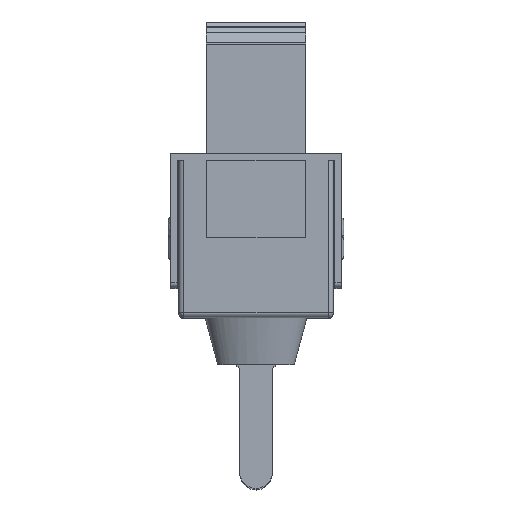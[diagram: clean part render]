
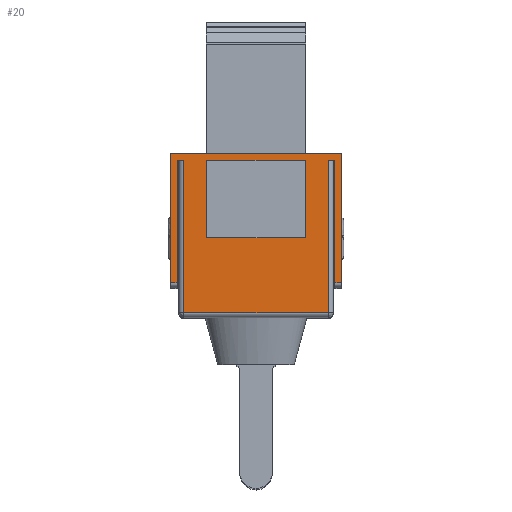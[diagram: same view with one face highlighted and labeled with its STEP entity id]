
A CAD part, top view. The second image highlights one B-rep face of the part: STEP entity #20.
In plain terms, the highlighted planar face has unit normal (0, 0, 1).
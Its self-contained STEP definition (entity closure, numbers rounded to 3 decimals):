
#20 = ADVANCED_FACE ( 'NONE', ( #4401, #32 ), #3296, .F. ) ;
#32 = FACE_OUTER_BOUND ( 'NONE', #3133, .T. ) ;
#221 = LINE ( 'NONE', #2928, #5377 ) ;
#256 = EDGE_CURVE ( 'NONE', #4262, #3949, #4169, .T. ) ;
#351 = VERTEX_POINT ( 'NONE', #528 ) ;
#389 = DIRECTION ( 'NONE',  ( 0., 0., -1. ) ) ;
#528 = CARTESIAN_POINT ( 'NONE',  ( 3.3, 1.35, 6.35 ) ) ;
#597 = VERTEX_POINT ( 'NONE', #6627 ) ;
#698 = VERTEX_POINT ( 'NONE', #9341 ) ;
#713 = DIRECTION ( 'NONE',  ( 1., 0., 0. ) ) ;
#755 = VECTOR ( 'NONE', #7665, 1000. ) ;
#864 = EDGE_CURVE ( 'NONE', #4262, #7285, #6384, .T. ) ;
#870 = VERTEX_POINT ( 'NONE', #3914 ) ;
#981 = VERTEX_POINT ( 'NONE', #2480 ) ;
#994 = CARTESIAN_POINT ( 'NONE',  ( 3.05, 6.1, 6.35 ) ) ;
#1126 = CARTESIAN_POINT ( 'NONE',  ( 2.8, 0.2, 6.35 ) ) ;
#1127 = VECTOR ( 'NONE', #713, 1000. ) ;
#1229 = LINE ( 'NONE', #6827, #5669 ) ;
#1416 = VECTOR ( 'NONE', #3459, 1000. ) ;
#1516 = VECTOR ( 'NONE', #5955, 1000. ) ;
#1562 = CARTESIAN_POINT ( 'NONE',  ( 3.3, 1.35, 6.35 ) ) ;
#1628 = VECTOR ( 'NONE', #3878, 1000. ) ;
#1703 = CARTESIAN_POINT ( 'NONE',  ( -2.8, 6.1, 6.35 ) ) ;
#1724 = ORIENTED_EDGE ( 'NONE', *, *, #8842, .F. ) ;
#1756 = LINE ( 'NONE', #5228, #1516 ) ;
#1837 = CARTESIAN_POINT ( 'NONE',  ( 2.8, 0.2, 6.35 ) ) ;
#1940 = ORIENTED_EDGE ( 'NONE', *, *, #7113, .F. ) ;
#1967 = EDGE_CURVE ( 'NONE', #4583, #981, #3574, .T. ) ;
#2051 = EDGE_LOOP ( 'NONE', ( #6010, #3826, #2089, #1940 ) ) ;
#2089 = ORIENTED_EDGE ( 'NONE', *, *, #5040, .F. ) ;
#2195 = EDGE_CURVE ( 'NONE', #9062, #351, #221, .T. ) ;
#2252 = CARTESIAN_POINT ( 'NONE',  ( 3.3, 1.35, 6.35 ) ) ;
#2290 = DIRECTION ( 'NONE',  ( -1., 0., 0. ) ) ;
#2312 = CARTESIAN_POINT ( 'NONE',  ( 2.8, 6.1, 6.35 ) ) ;
#2351 = VECTOR ( 'NONE', #6678, 1000. ) ;
#2405 = CARTESIAN_POINT ( 'NONE',  ( -3.05, 0.2, 6.35 ) ) ;
#2480 = CARTESIAN_POINT ( 'NONE',  ( -3.05, 1.35, 6.35 ) ) ;
#2520 = LINE ( 'NONE', #8816, #1127 ) ;
#2863 = VERTEX_POINT ( 'NONE', #4791 ) ;
#2910 = DIRECTION ( 'NONE',  ( 1., 0., 0. ) ) ;
#2928 = CARTESIAN_POINT ( 'NONE',  ( 3.3, 1.15, 6.35 ) ) ;
#3025 = VERTEX_POINT ( 'NONE', #9400 ) ;
#3084 = CARTESIAN_POINT ( 'NONE',  ( 1.9, 3.1, 6.35 ) ) ;
#3111 = DIRECTION ( 'NONE',  ( 0., 1., 0. ) ) ;
#3133 = EDGE_LOOP ( 'NONE', ( #4105, #3159, #9339, #9117, #5079, #6798, #1724, #3331, #7267, #8335, #4115, #5281 ) ) ;
#3159 = ORIENTED_EDGE ( 'NONE', *, *, #8197, .F. ) ;
#3296 = PLANE ( 'NONE',  #5857 ) ;
#3331 = ORIENTED_EDGE ( 'NONE', *, *, #9074, .F. ) ;
#3457 = LINE ( 'NONE', #7178, #5711 ) ;
#3459 = DIRECTION ( 'NONE',  ( -1., 0., 0. ) ) ;
#3574 = LINE ( 'NONE', #2405, #1628 ) ;
#3726 = LINE ( 'NONE', #2252, #6905 ) ;
#3804 = CARTESIAN_POINT ( 'NONE',  ( -2.8, 0.2, 6.35 ) ) ;
#3826 = ORIENTED_EDGE ( 'NONE', *, *, #9297, .F. ) ;
#3878 = DIRECTION ( 'NONE',  ( 0., -1., 0. ) ) ;
#3914 = CARTESIAN_POINT ( 'NONE',  ( -2.8, 0.2, 6.35 ) ) ;
#3949 = VERTEX_POINT ( 'NONE', #1126 ) ;
#4039 = VECTOR ( 'NONE', #3111, 1000. ) ;
#4065 = EDGE_CURVE ( 'NONE', #3025, #7285, #6187, .T. ) ;
#4105 = ORIENTED_EDGE ( 'NONE', *, *, #2195, .F. ) ;
#4115 = ORIENTED_EDGE ( 'NONE', *, *, #4065, .F. ) ;
#4169 = LINE ( 'NONE', #1837, #4737 ) ;
#4248 = EDGE_CURVE ( 'NONE', #4583, #8497, #1756, .T. ) ;
#4262 = VERTEX_POINT ( 'NONE', #2312 ) ;
#4281 = DIRECTION ( 'NONE',  ( 0., -1., 0. ) ) ;
#4287 = CARTESIAN_POINT ( 'NONE',  ( -3.05, 6.1, 6.35 ) ) ;
#4299 = DIRECTION ( 'NONE',  ( 0., -1., 0. ) ) ;
#4401 = FACE_BOUND ( 'NONE', #2051, .T. ) ;
#4583 = VERTEX_POINT ( 'NONE', #4287 ) ;
#4702 = DIRECTION ( 'NONE',  ( -1., 0., 0. ) ) ;
#4737 = VECTOR ( 'NONE', #5414, 1000. ) ;
#4791 = CARTESIAN_POINT ( 'NONE',  ( -3.3, 6.35, 6.35 ) ) ;
#4954 = DIRECTION ( 'NONE',  ( 0., 1., 0. ) ) ;
#5040 = EDGE_CURVE ( 'NONE', #5777, #7184, #2520, .T. ) ;
#5066 = CARTESIAN_POINT ( 'NONE',  ( 3.3, 6.35, 6.35 ) ) ;
#5079 = ORIENTED_EDGE ( 'NONE', *, *, #1967, .F. ) ;
#5106 = LINE ( 'NONE', #5351, #755 ) ;
#5228 = CARTESIAN_POINT ( 'NONE',  ( -2.05, 6.1, 6.35 ) ) ;
#5257 = CARTESIAN_POINT ( 'NONE',  ( 1.9, 0.2, 6.35 ) ) ;
#5281 = ORIENTED_EDGE ( 'NONE', *, *, #8843, .F. ) ;
#5351 = CARTESIAN_POINT ( 'NONE',  ( -3.3, 1.15, 6.35 ) ) ;
#5377 = VECTOR ( 'NONE', #4281, 1000. ) ;
#5398 = DIRECTION ( 'NONE',  ( 1., 0., 0. ) ) ;
#5414 = DIRECTION ( 'NONE',  ( 0., -1., 0. ) ) ;
#5491 = EDGE_CURVE ( 'NONE', #2863, #597, #5106, .T. ) ;
#5540 = CARTESIAN_POINT ( 'NONE',  ( 3.3, 0.2, 6.35 ) ) ;
#5576 = CARTESIAN_POINT ( 'NONE',  ( 3.3, 6.35, 6.35 ) ) ;
#5669 = VECTOR ( 'NONE', #4702, 1000. ) ;
#5695 = CARTESIAN_POINT ( 'NONE',  ( 3.3, 0.2, 6.35 ) ) ;
#5711 = VECTOR ( 'NONE', #4299, 1000. ) ;
#5777 = VERTEX_POINT ( 'NONE', #6561 ) ;
#5857 = AXIS2_PLACEMENT_3D ( 'NONE', #5540, #389, #8447 ) ;
#5955 = DIRECTION ( 'NONE',  ( 1., 0., 0. ) ) ;
#5959 = VECTOR ( 'NONE', #4954, 1000. ) ;
#6010 = ORIENTED_EDGE ( 'NONE', *, *, #7944, .F. ) ;
#6187 = LINE ( 'NONE', #7830, #5959 ) ;
#6191 = VERTEX_POINT ( 'NONE', #6263 ) ;
#6198 = LINE ( 'NONE', #3804, #2351 ) ;
#6263 = CARTESIAN_POINT ( 'NONE',  ( 1.9, 6.1, 6.35 ) ) ;
#6384 = LINE ( 'NONE', #994, #6986 ) ;
#6561 = CARTESIAN_POINT ( 'NONE',  ( -1.9, 3.1, 6.35 ) ) ;
#6627 = CARTESIAN_POINT ( 'NONE',  ( -3.3, 1.35, 6.35 ) ) ;
#6678 = DIRECTION ( 'NONE',  ( 0., 1., 0. ) ) ;
#6716 = DIRECTION ( 'NONE',  ( -1., 0., 0. ) ) ;
#6798 = ORIENTED_EDGE ( 'NONE', *, *, #4248, .T. ) ;
#6827 = CARTESIAN_POINT ( 'NONE',  ( 3.3, 6.1, 6.35 ) ) ;
#6905 = VECTOR ( 'NONE', #2290, 1000. ) ;
#6986 = VECTOR ( 'NONE', #5398, 1000. ) ;
#7113 = EDGE_CURVE ( 'NONE', #698, #5777, #3457, .T. ) ;
#7178 = CARTESIAN_POINT ( 'NONE',  ( -1.9, 0.2, 6.35 ) ) ;
#7184 = VERTEX_POINT ( 'NONE', #3084 ) ;
#7267 = ORIENTED_EDGE ( 'NONE', *, *, #256, .F. ) ;
#7285 = VERTEX_POINT ( 'NONE', #8217 ) ;
#7665 = DIRECTION ( 'NONE',  ( 0., -1., 0. ) ) ;
#7711 = VECTOR ( 'NONE', #2910, 1000. ) ;
#7774 = LINE ( 'NONE', #1562, #8445 ) ;
#7830 = CARTESIAN_POINT ( 'NONE',  ( 3.05, 0.2, 6.35 ) ) ;
#7944 = EDGE_CURVE ( 'NONE', #6191, #698, #1229, .T. ) ;
#8197 = EDGE_CURVE ( 'NONE', #2863, #9062, #8609, .T. ) ;
#8217 = CARTESIAN_POINT ( 'NONE',  ( 3.05, 6.1, 6.35 ) ) ;
#8335 = ORIENTED_EDGE ( 'NONE', *, *, #864, .T. ) ;
#8445 = VECTOR ( 'NONE', #6716, 1000. ) ;
#8447 = DIRECTION ( 'NONE',  ( -1., 0., 0. ) ) ;
#8472 = LINE ( 'NONE', #5695, #1416 ) ;
#8497 = VERTEX_POINT ( 'NONE', #1703 ) ;
#8609 = LINE ( 'NONE', #5066, #7711 ) ;
#8677 = LINE ( 'NONE', #5257, #4039 ) ;
#8816 = CARTESIAN_POINT ( 'NONE',  ( 3.3, 3.1, 6.35 ) ) ;
#8842 = EDGE_CURVE ( 'NONE', #870, #8497, #6198, .T. ) ;
#8843 = EDGE_CURVE ( 'NONE', #351, #3025, #3726, .T. ) ;
#9062 = VERTEX_POINT ( 'NONE', #5576 ) ;
#9074 = EDGE_CURVE ( 'NONE', #3949, #870, #8472, .T. ) ;
#9117 = ORIENTED_EDGE ( 'NONE', *, *, #9310, .F. ) ;
#9297 = EDGE_CURVE ( 'NONE', #7184, #6191, #8677, .T. ) ;
#9310 = EDGE_CURVE ( 'NONE', #981, #597, #7774, .T. ) ;
#9339 = ORIENTED_EDGE ( 'NONE', *, *, #5491, .T. ) ;
#9341 = CARTESIAN_POINT ( 'NONE',  ( -1.9, 6.1, 6.35 ) ) ;
#9400 = CARTESIAN_POINT ( 'NONE',  ( 3.05, 1.35, 6.35 ) ) ;
